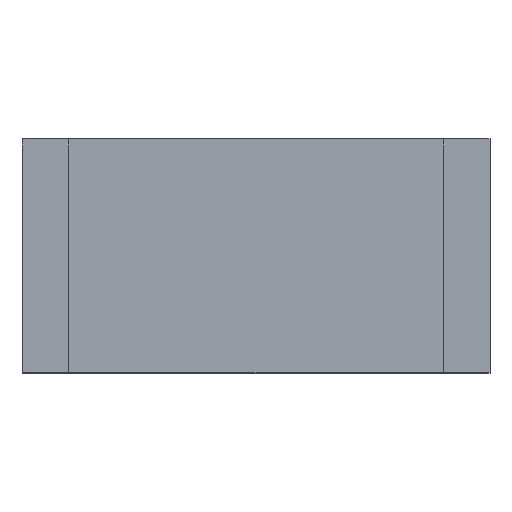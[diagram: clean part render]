
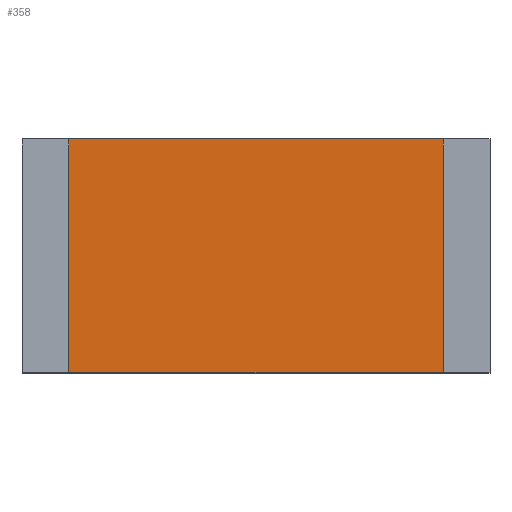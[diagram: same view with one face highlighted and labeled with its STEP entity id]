
A CAD part, top view. The second image highlights one B-rep face of the part: STEP entity #358.
In plain terms, the highlighted planar face has unit normal (0, 0, 1).
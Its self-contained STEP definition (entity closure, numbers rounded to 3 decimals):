
#358=ADVANCED_FACE('',(#586),#588,.T.);
#586=FACE_BOUND('',#587,.T.);
#587=EDGE_LOOP('',(#736,#737,#738,#739));
#588=PLANE('',#589);
#589=AXIS2_PLACEMENT_3D('',#590,#591,#592);
#590=CARTESIAN_POINT('',(0.,0.,0.59));
#591=DIRECTION('',(0.,0.,1.));
#592=DIRECTION('',(-1.,0.,0.));
#736=ORIENTED_EDGE('',*,*,#806,.T.);
#737=ORIENTED_EDGE('',*,*,#810,.T.);
#738=ORIENTED_EDGE('',*,*,#813,.T.);
#739=ORIENTED_EDGE('',*,*,#815,.T.);
#806=EDGE_CURVE('',#921,#919,#922,.T.);
#810=EDGE_CURVE('',#919,#926,#928,.T.);
#813=EDGE_CURVE('',#926,#931,#933,.T.);
#815=EDGE_CURVE('',#931,#921,#935,.T.);
#919=VERTEX_POINT('',#1161);
#921=VERTEX_POINT('',#1165);
#922=LINE('',#1166,#1167);
#926=VERTEX_POINT('',#1176);
#928=LINE('',#1180,#1181);
#931=VERTEX_POINT('',#1187);
#933=LINE('',#1191,#1192);
#935=LINE('',#1197,#1198);
#1161=CARTESIAN_POINT('',(-4.,-2.5,0.59));
#1165=CARTESIAN_POINT('',(-4.,2.5,0.59));
#1166=CARTESIAN_POINT('',(-4.,2.5,0.59));
#1167=VECTOR('',#1168,1.);
#1168=DIRECTION('',(0.,-1.,0.));
#1176=CARTESIAN_POINT('',(4.,-2.5,0.59));
#1180=CARTESIAN_POINT('',(-4.,-2.5,0.59));
#1181=VECTOR('',#1182,1.);
#1182=DIRECTION('',(1.,0.,0.));
#1187=CARTESIAN_POINT('',(4.,2.5,0.59));
#1191=CARTESIAN_POINT('',(4.,-2.5,0.59));
#1192=VECTOR('',#1193,1.);
#1193=DIRECTION('',(0.,1.,0.));
#1197=CARTESIAN_POINT('',(4.,2.5,0.59));
#1198=VECTOR('',#1199,1.);
#1199=DIRECTION('',(-1.,0.,0.));
